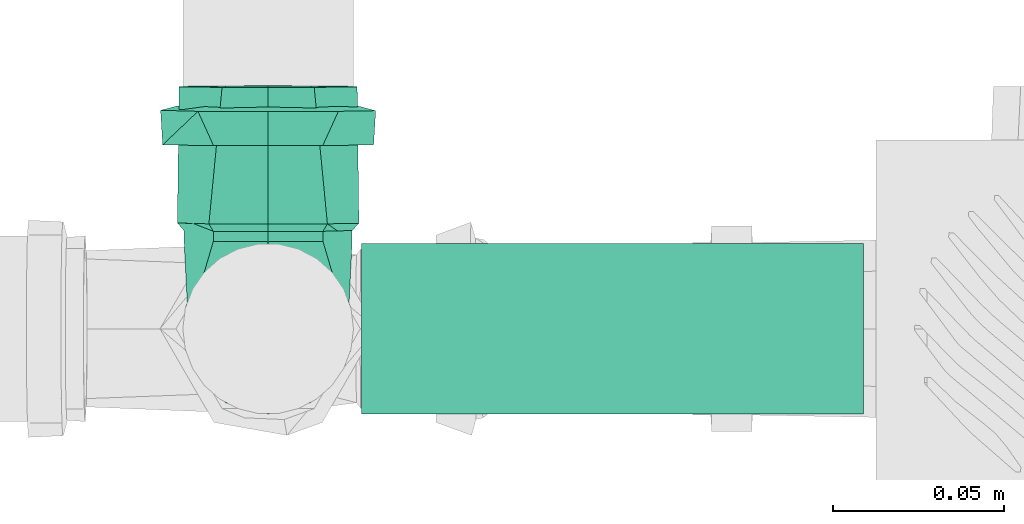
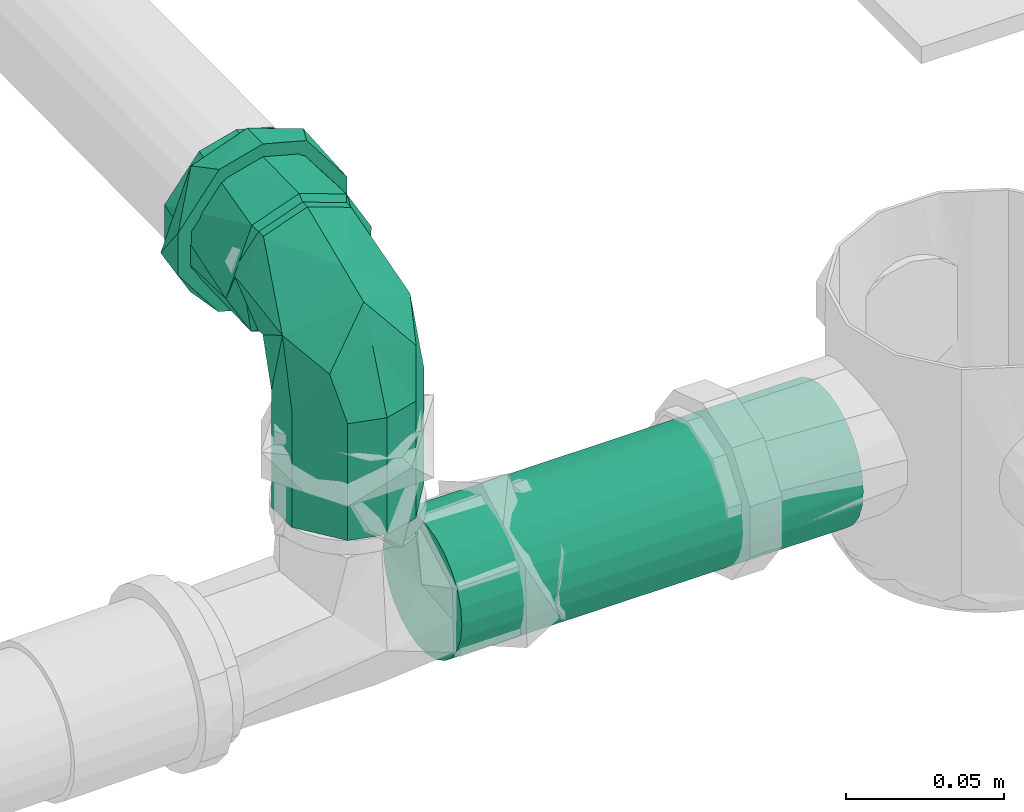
# One storey, part 111 of 589: 1 flow fitting, 1 flow segment.
"""IFC2X3 building model written with IfcOpenShell, lengths in millimetres."""

from ifc_helpers import new_model, entity, si_unit, converted_unit, derived_unit, direction, frame, frame_2d, origin, place, context, subcontext, project, spatial, circle, extrude, faceted_brep, source, transform, mapped, material, type_object, type_shapes, element, save


model = new_model("IFC2X3")

# Units and contexts
model_context = context("Model", 3, precision=0.01, world=origin(), true_north=direction((6.123031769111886e-17, 1.0)))
body_context = subcontext(model_context, "Body", "Model", "MODEL_VIEW")
ifc_project = project(units=[si_unit("LENGTHUNIT", "METRE", prefix="MILLI"), si_unit("AREAUNIT", "SQUARE_METRE"), si_unit("VOLUMEUNIT", "CUBIC_METRE"), converted_unit("PLANEANGLEUNIT", "DEGREE", entity("IfcRatioMeasure", 0.017453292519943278), si_unit("PLANEANGLEUNIT", "RADIAN"), dimensions=[0, 0, 0, 0, 0, 0, 0]), si_unit("MASSUNIT", "GRAM", prefix="KILO"), derived_unit("MASSDENSITYUNIT", [(si_unit("MASSUNIT", "GRAM", prefix="KILO"), 1), (si_unit("LENGTHUNIT", "METRE"), -3)]), derived_unit("IONCONCENTRATIONUNIT", [(si_unit("MASSUNIT", "GRAM", prefix="KILO"), 1), (si_unit("LENGTHUNIT", "METRE"), -3)]), derived_unit("MOMENTOFINERTIAUNIT", [(si_unit("LENGTHUNIT", "METRE"), 4)]), si_unit("TIMEUNIT", "SECOND"), si_unit("FREQUENCYUNIT", "HERTZ"), si_unit("THERMODYNAMICTEMPERATUREUNIT", "DEGREE_CELSIUS"), derived_unit("THERMALTRANSMITTANCEUNIT", [(si_unit("MASSUNIT", "GRAM", prefix="KILO"), 1), (si_unit("THERMODYNAMICTEMPERATUREUNIT", "KELVIN"), -1), (si_unit("TIMEUNIT", "SECOND"), -3)]), derived_unit("THERMALCONDUCTANCEUNIT", [(si_unit("MASSUNIT", "GRAM", prefix="KILO"), 1), (si_unit("THERMODYNAMICTEMPERATUREUNIT", "KELVIN"), -1), (si_unit("TIMEUNIT", "SECOND"), -3), (si_unit("LENGTHUNIT", "METRE"), 1)]), derived_unit("VOLUMETRICFLOWRATEUNIT", [(si_unit("LENGTHUNIT", "METRE"), 3), (si_unit("TIMEUNIT", "SECOND"), -1)]), derived_unit("MASSFLOWRATEUNIT", [(si_unit("MASSUNIT", "GRAM", prefix="KILO"), 1), (si_unit("TIMEUNIT", "SECOND"), -1)]), derived_unit("ROTATIONALFREQUENCYUNIT", [(si_unit("TIMEUNIT", "SECOND"), -1)]), si_unit("ELECTRICCURRENTUNIT", "AMPERE"), si_unit("ELECTRICVOLTAGEUNIT", "VOLT"), si_unit("POWERUNIT", "WATT"), si_unit("FORCEUNIT", "NEWTON", prefix="KILO"), si_unit("ILLUMINANCEUNIT", "LUX"), si_unit("LUMINOUSFLUXUNIT", "LUMEN"), si_unit("LUMINOUSINTENSITYUNIT", "CANDELA"), derived_unit("USERDEFINED", [(si_unit("MASSUNIT", "GRAM", prefix="KILO"), -1), (si_unit("LENGTHUNIT", "METRE"), -2), (si_unit("TIMEUNIT", "SECOND"), 3), (si_unit("LUMINOUSFLUXUNIT", "LUMEN"), 1)]), derived_unit("USERDEFINED", [(si_unit("MASSUNIT", "GRAM", prefix="KILO"), 1), (si_unit("TIMEUNIT", "SECOND"), -3), (si_unit("LENGTHUNIT", "METRE"), 3), (si_unit("ELECTRICCURRENTUNIT", "AMPERE"), -2)]), derived_unit("SOUNDPOWERUNIT", [(si_unit("MASSUNIT", "GRAM", prefix="KILO"), 1), (si_unit("TIMEUNIT", "SECOND"), -3), (si_unit("LENGTHUNIT", "METRE"), 2)]), derived_unit("SOUNDPRESSUREUNIT", [(si_unit("MASSUNIT", "GRAM", prefix="KILO"), 1), (si_unit("LENGTHUNIT", "METRE"), -1), (si_unit("TIMEUNIT", "SECOND"), -2)]), derived_unit("LINEARVELOCITYUNIT", [(si_unit("LENGTHUNIT", "METRE"), 1), (si_unit("TIMEUNIT", "SECOND"), -1)]), si_unit("PRESSUREUNIT", "PASCAL"), derived_unit("USERDEFINED", [(si_unit("MASSUNIT", "GRAM", prefix="KILO"), 1), (si_unit("LENGTHUNIT", "METRE"), -2), (si_unit("TIMEUNIT", "SECOND"), -2)]), derived_unit("LINEARFORCEUNIT", [(si_unit("MASSUNIT", "GRAM", prefix="KILO"), 1), (si_unit("TIMEUNIT", "SECOND"), -2)]), derived_unit("PLANARFORCEUNIT", [(si_unit("MASSUNIT", "GRAM", prefix="KILO"), 1), (si_unit("LENGTHUNIT", "METRE"), -1), (si_unit("TIMEUNIT", "SECOND"), -2)]), derived_unit("SPECIFICHEATCAPACITYUNIT", [(si_unit("THERMODYNAMICTEMPERATUREUNIT", "KELVIN"), -1), (si_unit("LENGTHUNIT", "METRE"), 2), (si_unit("TIMEUNIT", "SECOND"), -2)]), derived_unit("HEATINGVALUEUNIT", [(si_unit("LENGTHUNIT", "METRE"), 2), (si_unit("TIMEUNIT", "SECOND"), -2)]), derived_unit("VAPORPERMEABILITYUNIT", [(si_unit("LENGTHUNIT", "METRE"), -1), (si_unit("TIMEUNIT", "SECOND"), 1)]), derived_unit("DYNAMICVISCOSITYUNIT", [(si_unit("MASSUNIT", "GRAM", prefix="KILO"), 1), (si_unit("TIMEUNIT", "SECOND"), -1), (si_unit("LENGTHUNIT", "METRE"), -1)]), derived_unit("THERMALEXPANSIONCOEFFICIENTUNIT", [(si_unit("THERMODYNAMICTEMPERATUREUNIT", "KELVIN"), -1)]), derived_unit("MODULUSOFELASTICITYUNIT", [(si_unit("MASSUNIT", "GRAM", prefix="KILO"), 1), (si_unit("LENGTHUNIT", "METRE"), -1), (si_unit("TIMEUNIT", "SECOND"), -2)]), derived_unit("ISOTHERMALMOISTURECAPACITYUNIT", [(si_unit("LENGTHUNIT", "METRE"), 3), (si_unit("MASSUNIT", "GRAM", prefix="KILO"), -1)]), derived_unit("MOISTUREDIFFUSIVITYUNIT", [(si_unit("TIMEUNIT", "SECOND"), -1), (si_unit("LENGTHUNIT", "METRE"), 2)])], contexts=[model_context])

# Site, building, storey
site_placement = place(None, origin())
site = spatial("IfcSite", under=ifc_project, at=site_placement, Name="Default", CompositionType="ELEMENT")
building_placement = place(site_placement, origin())
building = spatial("IfcBuilding", under=site, at=building_placement, CompositionType="ELEMENT")
storey_placement = place(building_placement, frame((0.0, 0.0, 100.0)))
storey = spatial("IfcBuildingStorey", under=building, at=storey_placement, Name="TÉRREO", CompositionType="ELEMENT", Elevation=100.0)

# Flow segment
pipe_segment_type = type_object("IfcPipeSegmentType", Name="Tipos de tubos:PVC Esgoto Série Normal", PredefinedType="NOTDEFINED")
flow_segment_placement = place(storey_placement, origin())
element("IfcFlowSegment", 1, at=flow_segment_placement, inside=storey, type_object=pipe_segment_type, Name="Tipos de tubos:PVC Esgoto Série Normal", ObjectType="Tipos de tubos:PVC Esgoto Série Normal", context=body_context, shape_type="SweptSolid", body=[
    extrude(circle(Radius=25.0, at=frame_2d((0.0, -3.383959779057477e-14), x_axis=(1.0, 0.0))), frame((2726.8790197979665, 697.7290075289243, -190.35482666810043), z_axis=(1.0, 0.0, 0.0), x_axis=(0.0, 1.0, 0.0)), (0.0, 0.0, 1.0), 146.9832453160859),
])

# Flow fitting
ifc_material = material(Name="PVC Série Normal")
pipe_fitting_type = type_object("IfcPipeFittingType", Name="PVC Esgoto_Joelho 45_90_Rodrigo MEP:a. Série Normal", PredefinedType="NOTDEFINED", material=ifc_material)
shared_shape = source(origin(), body_context, "Body", "Brep", [
    faceted_brep([(-70.94129996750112, -21.650635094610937, -12.500000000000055), (-70.94129996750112, -25.0, 0.0), (-70.94129996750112, -21.650635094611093, 12.499999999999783), (-70.94129996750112, -6.470476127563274, 24.148145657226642), (-70.94129996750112, 6.470476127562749, 24.14814565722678), (-70.94129996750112, 21.650635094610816, 12.500000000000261), (-70.94129996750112, 25.0, 0.0), (-70.94129996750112, 21.650635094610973, -12.499999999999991), (-70.94129996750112, 6.4704761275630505, -24.1481456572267), (-70.94129996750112, -6.4704761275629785, -24.14814565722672), (-25.74129996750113, 6.4704761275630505, -24.1481456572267), (-25.74129996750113, 21.650635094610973, -12.499999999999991), (-25.74129996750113, 25.0, 0.0), (-25.74129996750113, 21.650635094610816, 12.500000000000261), (-25.74129996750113, 6.470476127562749, 24.14814565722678), (-25.74129996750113, -6.470476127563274, 24.148145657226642), (-25.74129996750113, -21.650635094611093, 12.499999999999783), (-25.74129996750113, -25.0, 0.0), (-25.74129996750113, -21.650635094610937, -12.500000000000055), (-25.74129996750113, -6.4704761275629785, -24.14814565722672)], [[[0, 1, 2, 3, 4, 5, 6, 7, 8, 9]], [[10, 11, 12, 13, 14, 15, 16, 17, 18, 19]], [[1, 17, 16, 2]], [[2, 16, 15, 3]], [[15, 14, 4, 3]], [[4, 14, 13, 5]], [[5, 13, 12, 6]], [[6, 12, 11, 7]], [[7, 11, 10, 8]], [[10, 19, 9, 8]], [[9, 19, 18, 0]], [[0, 18, 17, 1]]]),
    faceted_brep([(7.527150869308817, 53.86872545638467, -26.079997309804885), (-6.448378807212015, 54.008480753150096, -26.079997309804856), (-7.742409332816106, 54.02142105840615, -30.90962644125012), (8.8211813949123, 53.85578515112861, -30.90962644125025), (23.920902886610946, 53.70478793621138, -13.500000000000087), (-27.172041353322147, 54.215717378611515, -16.0), (-22.842130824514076, 54.172418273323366, -13.499999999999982), (-26.459264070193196, 54.20858960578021, 0.0), (-31.45901408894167, 54.25858710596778, 0.0), (-22.842130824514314, 54.172418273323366, 13.499999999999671), (-27.17204135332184, 54.21571737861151, 16.0), (-6.448378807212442, 54.008480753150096, 26.079997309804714), (-7.742409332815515, 54.02142105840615, 30.909626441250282), (7.527150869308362, 53.86872545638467, 26.07999730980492), (8.821181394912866, 53.8557851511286, 30.909626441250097), (23.92090288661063, 53.70478793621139, 13.500000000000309), (28.250813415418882, 53.66148883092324, 16.0), (32.53778615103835, 53.618619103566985, 0.0), (27.538036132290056, 53.66861660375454, 0.0), (28.250813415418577, 53.66148883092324, -16.0), (32.63778115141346, 63.61811914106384, 0.0), (25.150431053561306, 63.692992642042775, 20.570569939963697), (-4.921474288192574, 63.99371169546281, 31.513073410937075), (-23.876827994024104, 64.1832652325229, 20.564420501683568), (-31.359019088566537, 64.25808714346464, 0.0), (-23.876827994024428, 64.1832652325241, -20.564420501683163), (6.192331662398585, 63.88257363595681, -31.51446740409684), (25.150431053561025, 63.692992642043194, -20.57056993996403), (-26.35926906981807, 64.20808964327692, 0.0), (-26.346269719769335, 65.50802464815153, 0.0), (-24.550702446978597, 64.19000397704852, 6.749999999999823), (-22.742135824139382, 64.1719183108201, 13.49999999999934), (-18.643697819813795, 64.1309339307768, 16.644999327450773), (-14.545259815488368, 64.08994955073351, 19.789998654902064), (-10.446821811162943, 64.04896517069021, 22.934997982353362), (-6.34838380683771, 64.00798079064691, 26.07999730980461), (0.63938103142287, 63.938103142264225, 26.07999730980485), (7.627145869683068, 63.86822549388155, 26.079997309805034), (11.725583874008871, 63.82724111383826, 22.934997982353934), (15.824021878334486, 63.78625673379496, 19.789998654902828), (19.922459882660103, 63.74527235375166, 16.64499932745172), (24.020897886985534, 63.70428797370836, 13.500000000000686), (25.82946450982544, 63.686202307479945, 6.750000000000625), (27.65103048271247, 64.96805164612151, 0.0), (27.638031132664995, 63.66811664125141, 0.0), (25.82946450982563, 63.686202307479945, -6.750000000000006), (24.020897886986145, 63.70428797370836, -13.499999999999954), (19.922459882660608, 63.74527235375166, -16.644999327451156), (15.824021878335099, 63.78625673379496, -19.789998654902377), (11.72558387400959, 63.82724111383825, -22.934997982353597), (7.62714586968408, 63.86822549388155, -26.07999730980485), (0.6393810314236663, 63.938103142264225, -26.079997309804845), (-6.348383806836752, 64.0079807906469, -26.079997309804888), (-10.446821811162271, 64.0489651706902, -22.93499798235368), (-14.545259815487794, 64.0899495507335, -19.78999865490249), (-18.64369781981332, 64.1309339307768, -16.644999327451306), (-22.742135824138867, 64.17191831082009, -13.50000000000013), (-24.550702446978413, 64.1900039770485, -6.7500000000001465), (24.494481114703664, 64.99961713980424, 8.675614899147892), (21.337931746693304, 65.03118263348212, 17.3512297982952), (14.995218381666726, 65.09460976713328, 19.661005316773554), (8.652505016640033, 65.15803690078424, 21.970780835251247), (2.3097916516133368, 65.22146403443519, 24.280556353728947), (-4.032921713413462, 65.28489116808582, 26.590331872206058), (-20.02881807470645, 65.44485013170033, 17.356418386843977), (-23.187543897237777, 65.47643738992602, 8.678209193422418), (-12.030869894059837, 65.36487064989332, 21.97337512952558), (-23.187543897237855, 65.47643738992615, -8.678209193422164), (-20.028818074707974, 65.44485013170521, -17.35641838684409), (-13.68552554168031, 65.38141720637, -19.664602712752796), (-7.342233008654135, 65.31798428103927, -21.972787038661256), (-0.998940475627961, 65.25455135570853, -24.280971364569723), (5.344352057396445, 65.1911184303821, -26.589155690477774), (21.3379317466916, 65.03118263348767, -17.35122979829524), (24.494481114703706, 64.9996171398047, -8.675614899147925), (13.34114190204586, 65.11115053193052, -21.970192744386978)], [[[0, 1, 2]], [[2, 3, 0]], [[4, 0, 3]], [[5, 2, 1]], [[1, 6, 5]], [[6, 7, 5]], [[8, 5, 7]], [[8, 7, 9]], [[10, 8, 9]], [[9, 11, 10]], [[11, 12, 10]], [[13, 12, 11]], [[12, 13, 14]], [[13, 15, 14]], [[16, 14, 15]], [[16, 15, 17]], [[17, 15, 18]], [[18, 4, 19]], [[17, 18, 19]], [[3, 19, 4]], [[20, 21, 16]], [[20, 16, 17]], [[16, 21, 14]], [[21, 22, 14]], [[12, 22, 23]], [[10, 23, 24]], [[23, 10, 12]], [[10, 24, 8]], [[22, 12, 14]], [[24, 25, 5]], [[24, 5, 8]], [[5, 25, 2]], [[25, 26, 2]], [[3, 26, 27]], [[19, 27, 20]], [[27, 19, 3]], [[19, 20, 17]], [[26, 3, 2]], [[9, 7, 28, 29, 30, 31]], [[11, 9, 31, 32, 33, 34, 35]], [[11, 35, 36, 37, 13]], [[15, 13, 37, 38, 39, 40, 41]], [[18, 15, 41, 42, 43, 44]], [[4, 18, 44, 43, 45, 46]], [[0, 4, 46, 47, 48, 49, 50]], [[0, 50, 51, 52, 1]], [[6, 1, 52, 53, 54, 55, 56]], [[7, 6, 56, 57, 29, 28]], [[20, 43, 58, 59]], [[59, 21, 20]], [[21, 59, 60, 61, 62, 63]], [[21, 63, 22]], [[23, 64, 65, 29]], [[23, 22, 64]], [[24, 23, 29]], [[22, 63, 66, 64]], [[25, 29, 67, 68]], [[29, 25, 24]], [[25, 68, 26]], [[26, 68, 69, 70, 71, 72]], [[20, 73, 74, 43]], [[27, 72, 75, 73]], [[27, 73, 20]], [[72, 27, 26]], [[41, 40, 39, 59]], [[31, 65, 64]], [[61, 60, 38]], [[38, 60, 39]], [[63, 62, 36]], [[66, 63, 35]], [[32, 31, 64, 33]], [[36, 62, 37]], [[36, 35, 63]], [[38, 37, 61]], [[34, 33, 66, 35]], [[65, 30, 29]], [[42, 58, 43]], [[60, 59, 39]], [[37, 62, 61]], [[58, 41, 59]], [[66, 33, 64]], [[42, 41, 58]], [[65, 31, 30]], [[56, 55, 54, 68]], [[46, 74, 73]], [[70, 69, 53]], [[53, 69, 54]], [[72, 71, 51]], [[75, 72, 50]], [[47, 46, 73, 48]], [[51, 71, 52]], [[51, 50, 72]], [[53, 52, 70]], [[49, 48, 75, 50]], [[74, 45, 43]], [[57, 67, 29]], [[69, 68, 54]], [[52, 71, 70]], [[67, 56, 68]], [[75, 48, 73]], [[57, 56, 67]], [[74, 46, 45]]]),
    faceted_brep([(-21.34015511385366, 31.156248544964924, 12.50000000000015), (-6.160755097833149, 31.004454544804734, 24.14814565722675), (6.77955015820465, 30.875051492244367, 24.148145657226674), (21.958950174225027, 30.723257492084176, 12.499999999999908), (25.308147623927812, 30.68976551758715, 0.0), (21.95895017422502, 30.723257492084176, -12.499999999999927), (6.7795501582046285, 30.875051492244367, -24.148145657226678), (-6.160755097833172, 31.004454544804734, -24.14814565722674), (-21.340155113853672, 31.156248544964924, -12.500000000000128), (-24.689352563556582, 31.18974051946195, 0.0), (25.286148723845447, 28.48987550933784, 0.0), (19.440686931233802, 28.54833012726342, -16.065953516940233), (27.308047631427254, 30.66976651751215, 0.0), (-7.690727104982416, 31.019754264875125, -21.97078083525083), (4.994699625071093, 30.892899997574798, -26.5903318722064), (-4.05084405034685, 28.783245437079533, -24.62067765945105), (20.9905959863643, 30.732941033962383, -17.35641838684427), (-18.86185919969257, 28.931355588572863, -16.070757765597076), (-20.376153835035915, 31.146608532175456, -17.35122979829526), (7.694921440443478, 28.665787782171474, -20.34331558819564), (-24.711351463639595, 28.989850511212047, 0.0), (-26.68925257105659, 31.209739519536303, 0.0), (-18.861859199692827, 28.931355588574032, 16.07075776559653), (-20.376153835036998, 31.146608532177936, 17.35122979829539), (8.30401092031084, 30.859806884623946, 21.97278703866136), (-4.382574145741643, 30.986672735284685, 26.58915569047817), (4.631816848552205, 28.69641882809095, 24.619588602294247), (19.440686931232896, 28.548330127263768, 16.06595351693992), (20.99059598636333, 30.732941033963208, 17.356418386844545), (-7.115021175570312, 28.813887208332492, 20.345173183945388), (-6.278387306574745, 71.00763081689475, -26.0799973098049), (-5.760775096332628, 71.00245469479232, -24.14814565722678), (7.179530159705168, 70.87305164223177, -24.148145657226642), (-22.67213932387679, 71.17156833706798, -13.499999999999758), (7.697142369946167, 70.86787552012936, -26.07999730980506), (-20.9401751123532, 71.15424869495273, -12.500000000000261), (-24.289372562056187, 71.1877406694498, 0.0), (-26.289272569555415, 71.20773966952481, 0.0), (-20.940175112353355, 71.15424869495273, 12.499999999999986), (-22.672139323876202, 71.17156833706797, 13.50000000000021), (-5.760775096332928, 71.00245469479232, 24.1481456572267), (-6.2783873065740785, 71.00763081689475, 26.07999730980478), (7.179530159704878, 70.87305164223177, 24.148145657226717), (7.697142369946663, 70.86787552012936, 26.079997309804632), (22.358930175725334, 70.72125764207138, 12.500000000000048), (24.09089438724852, 70.70393799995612, 13.499999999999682), (27.708027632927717, 70.66776666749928, 0.0), (25.7081276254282, 70.6877656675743, 0.0), (24.09089438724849, 70.70393799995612, -13.500000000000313), (22.358930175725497, 70.72125764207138, -12.499999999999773), (25.256150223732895, 25.49002549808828, 0.0), (19.407503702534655, 25.548511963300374, 16.069749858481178), (4.598234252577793, 25.69660465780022, 24.62022085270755), (-7.1473471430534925, 25.81406047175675, 20.344851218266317), (-18.892928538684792, 25.93151628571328, 16.069481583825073), (-24.74134996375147, 25.990000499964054, 0.0), (-18.89292853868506, 25.93151628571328, -16.06948158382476), (-4.083778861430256, 25.78342478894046, -24.620160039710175), (19.407503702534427, 25.548511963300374, -16.069749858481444), (7.661862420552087, 25.665968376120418, -20.34495494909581), (-25.741299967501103, -21.65063509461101, 12.499999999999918), (-25.741299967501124, -6.470476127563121, 24.148145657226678), (-25.741299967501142, 6.470476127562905, 24.14814565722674), (-25.741299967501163, 21.650635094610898, 12.500000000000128), (-25.74129996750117, 25.0, 0.0), (-25.741299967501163, 21.65063509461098, -12.499999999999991), (-25.741299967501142, 6.470476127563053, -24.1481456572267), (-25.741299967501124, -6.470476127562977, -24.14814565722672), (-25.741299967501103, -21.650635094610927, -12.500000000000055), (-25.741299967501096, -25.0, 0.0), (-8.793857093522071, -16.047881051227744, 15.848255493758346), (-3.2027279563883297, -15.730161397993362, 0.0), (10.140389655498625, -10.242300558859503, 0.0), (-1.424468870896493, 0.8894555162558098, 23.341145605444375), (15.761400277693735, 3.0452732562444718, 0.0), (-25.037737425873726, 25.289366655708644, 0.0), (-8.793856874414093, -16.047880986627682, -15.84825546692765), (-1.5162390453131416, 0.8510028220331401, -23.354961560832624)], [[[0, 1, 2, 3, 4, 5, 6, 7, 8, 9]], [[10, 11, 12]], [[13, 14, 15]], [[16, 12, 11]], [[13, 17, 18]], [[17, 13, 15]], [[16, 19, 14]], [[17, 20, 18]], [[18, 20, 21]], [[19, 16, 11]], [[14, 19, 15]], [[20, 22, 23]], [[24, 25, 26]], [[23, 21, 20]], [[24, 27, 28]], [[27, 24, 26]], [[23, 29, 25]], [[27, 10, 12]], [[28, 27, 12]], [[29, 23, 22]], [[25, 29, 26]], [[30, 31, 32]], [[31, 30, 33]], [[32, 34, 30]], [[33, 35, 31]], [[33, 36, 35]], [[36, 33, 37]], [[38, 36, 37]], [[38, 37, 39]], [[39, 40, 38]], [[39, 41, 40]], [[40, 41, 42]], [[43, 42, 41]], [[43, 44, 42]], [[44, 43, 45]], [[46, 44, 45]], [[47, 44, 46]], [[48, 47, 46]], [[48, 49, 47]], [[49, 48, 34]], [[34, 32, 49]], [[46, 45, 12]], [[45, 28, 12]], [[28, 45, 43]], [[43, 25, 24, 28]], [[23, 41, 39]], [[21, 39, 37]], [[41, 23, 25]], [[23, 39, 21]], [[41, 25, 43]], [[37, 33, 21]], [[33, 18, 21]], [[18, 33, 30]], [[30, 14, 13, 18]], [[16, 34, 48]], [[12, 48, 46]], [[34, 16, 14]], [[16, 48, 12]], [[34, 14, 30]], [[5, 4, 47, 49]], [[6, 5, 49, 32]], [[32, 31, 7, 6]], [[8, 7, 31, 35]], [[9, 8, 35, 36]], [[0, 9, 36, 38]], [[1, 0, 38, 40]], [[40, 42, 2, 1]], [[3, 2, 42, 44]], [[4, 3, 44, 47]], [[10, 27, 50]], [[27, 51, 50]], [[51, 27, 26]], [[51, 26, 52]], [[52, 29, 53]], [[22, 54, 53]], [[22, 20, 54]], [[26, 29, 52]], [[54, 20, 55]], [[29, 22, 53]], [[20, 17, 56]], [[20, 56, 55]], [[56, 17, 57]], [[58, 59, 19]], [[17, 15, 57]], [[15, 59, 57]], [[58, 19, 11]], [[11, 50, 58]], [[50, 11, 10]], [[59, 15, 19]], [[60, 61, 62, 63, 64, 65, 66, 67, 68, 69]], [[70, 60, 71]], [[72, 73, 70]], [[74, 73, 72]], [[73, 61, 70]], [[70, 61, 60]], [[63, 62, 54]], [[64, 63, 75]], [[60, 69, 71]], [[73, 62, 61]], [[73, 74, 51]], [[74, 50, 51]], [[51, 52, 73]], [[75, 63, 55]], [[72, 70, 71]], [[63, 54, 55]], [[54, 62, 73]], [[73, 52, 53, 54]], [[76, 72, 71]], [[76, 68, 67]], [[65, 64, 75]], [[66, 65, 56]], [[71, 69, 68]], [[67, 77, 76]], [[68, 76, 71]], [[56, 77, 66]], [[55, 56, 65]], [[58, 50, 74]], [[77, 56, 57]], [[74, 77, 58]], [[67, 66, 77]], [[72, 77, 74]], [[77, 57, 59, 58]], [[72, 76, 77]], [[65, 75, 55]]]),
])
type_shapes(pipe_fitting_type, [shared_shape])
flow_fitting_placement = place(storey_placement, frame((2699.4844981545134, 697.7290075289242, -75.0), z_axis=(-1.0, 0.0, 0.0), x_axis=(0.0, 0.0, 1.0)))
element("IfcFlowFitting", 2, at=flow_fitting_placement, inside=storey, type_object=pipe_fitting_type, material=ifc_material, Name="PVC Esgoto_Joelho 45_90_Rodrigo MEP:a. Série Normal", ObjectType="PVC Esgoto_Joelho 45_90_Rodrigo MEP:a. Série Normal", context=body_context, shape_type="MappedRepresentation", body=[
    mapped(shared_shape, transform((0.0, 0.0, 0.0), scale=1.0)),
])

save(model, "model.ifc")
